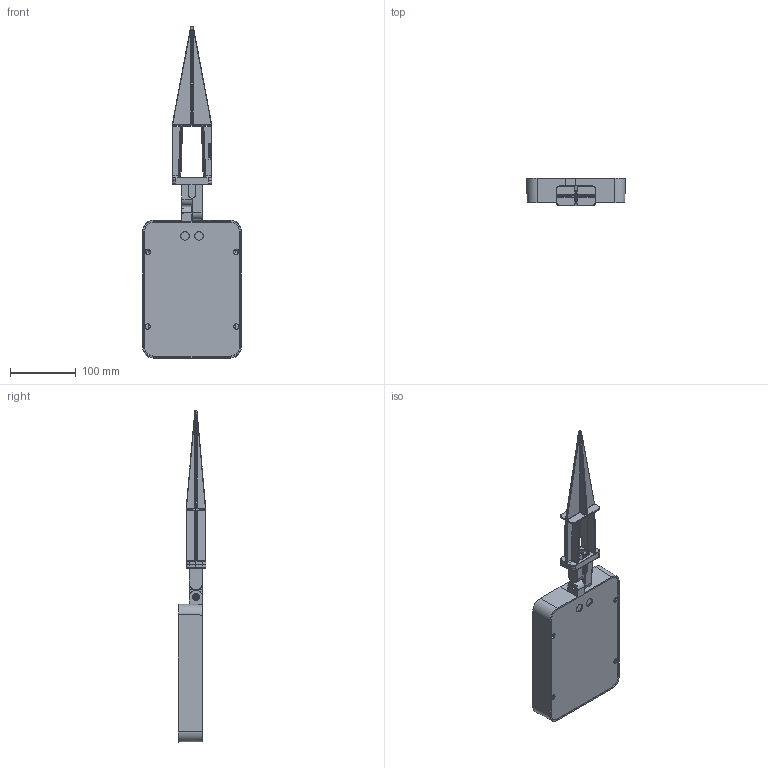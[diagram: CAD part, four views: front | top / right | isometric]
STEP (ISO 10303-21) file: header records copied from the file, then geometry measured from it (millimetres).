
FILE_DESCRIPTION((''),'2;1');
FILE_NAME('TAG210-COB-CITIZEN_SW0001','2025-07-29T08:35:28',('Piccioli'),(''),'CREO PARAMETRIC BY PTC INC, 2025010','CREO PARAMETRIC BY PTC INC, 2025010','');
FILE_SCHEMA(('CONFIG_CONTROL_DESIGN'));
Products named in the file (1): TAG210-COB-CITIZEN_SW0001
Bounding box: 150 x 42 x 506 mm (x, y, z)
Surface area: 254202.1 mm2 (no closed solid volume)
Topology: 0 solids, 125 shells, 894 faces, 4094 edges, 3248 vertices
Faces by surface type: plane 287, cylinder 273, cone 138, bspline 131, torus 65
Entity records: 68612 total; most frequent: CARTESIAN_POINT 39010, ORIENTED_EDGE 5435, DIRECTION 5426, EDGE_CURVE 4094, VERTEX_POINT 3248, AXIS2_PLACEMENT_3D 1830, VECTOR 1766, LINE 1766
